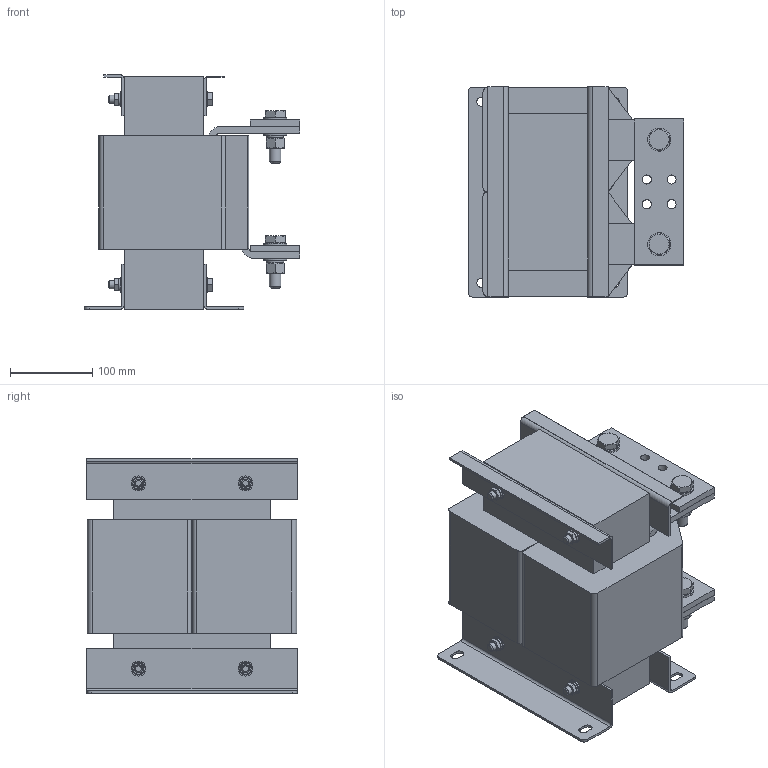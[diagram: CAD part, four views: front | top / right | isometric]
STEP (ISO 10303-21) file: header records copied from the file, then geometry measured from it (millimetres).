
FILE_DESCRIPTION(('STEP AP203'), '1');
FILE_NAME('DC-400-04 _ Äðîññåëü ïîñòîÿííîãî òîêà', '', ('UNSPECIFIED'), ('UNSPECIFIED'), 'C3D Converter', 'C3D Toolkit', '');
FILE_SCHEMA(('CONFIG_CONTROL_DESIGN'));
Length unit declared in the file: millimetre
Products named in the file (9): DC-400-04
Assembly tree (40 placements, depth 2):
  DC-400-04
    (unnamed)  x8
    (unnamed)  x4
    (unnamed)  x4
    (unnamed)  x4
    (unnamed)  x8
    (unnamed)  x4
    (unnamed)  x4
    (unnamed)  x4
Bounding box: 262 x 255 x 285 mm (x, y, z)
Volume: 9295201.9 mm3; surface area: 673460.7 mm2
Topology: 47 solids, 47 shells, 540 faces, 1202 edges, 764 vertices
Faces by surface type: plane 328, cylinder 136, cone 68, torus 8
Full cylindrical faces by diameter (mm): 8.376 x4, 10 x4, 10.5 x8, 11 x20, 11.835 x4, 14 x8, 15 x12, 18 x8, 24 x4, 28 x8
Entity records: 11988 total; most frequent: CARTESIAN_POINT 3189, DIRECTION 1318, ORIENTED_EDGE 1176, EDGE_CURVE 588, AXIS2_PLACEMENT_3D 487, VERTEX_POINT 414, EDGE_LOOP 382, LINE 344
